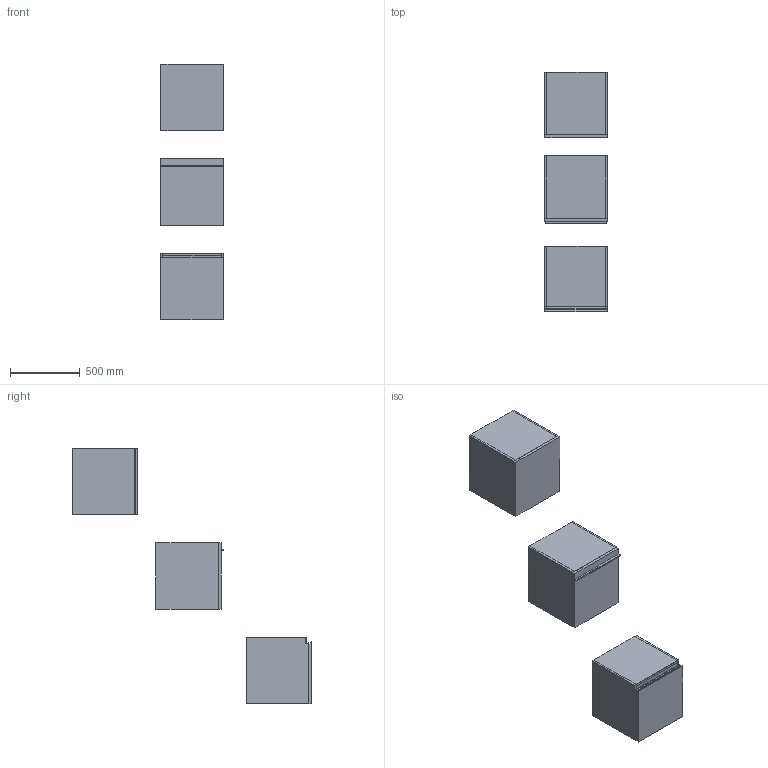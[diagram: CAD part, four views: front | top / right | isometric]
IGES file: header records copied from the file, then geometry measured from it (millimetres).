
Start section: Data from Parasolid IGES Translator 19.0.9, Copyright(c) 2006 Siemens PL M Software. All Rights Reserved.
Global section: file name: noorth-SI-H 48 D 47 W 45_8475.igs; native system: By Siemens PLM Incorporated; preprocessor: XPlus GENERIC/IGES 19.0.9; author: Noname; organization: Noname; date: 20200601.105518; units: metre
Bounding box: 450 x 1719.1 x 1840.01 mm (x, y, z)
Volume: 52177461.2 mm3; surface area: 7734587.5 mm2
Topology: 20 solids, 20 shells, 178 faces, 382 edges, 234 vertices
Faces by surface type: plane 134, extrusion 16, bspline 16, cylinder 12
